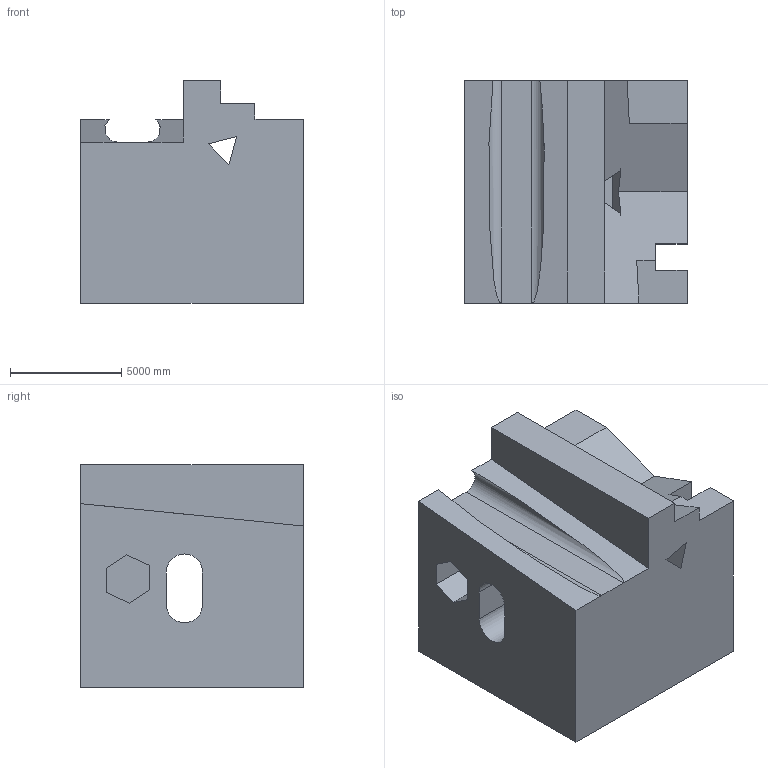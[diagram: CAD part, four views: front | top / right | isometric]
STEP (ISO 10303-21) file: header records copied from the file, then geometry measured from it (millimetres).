
FILE_DESCRIPTION (( 'STEP AP203' ), '1' );
FILE_NAME ('780.STEP', '2022-08-04T15:51:49', ( 'user' ), ( '' ), 'SwSTEP 2.0', 'SolidWorks 2021', '' );
FILE_SCHEMA (( 'CONFIG_CONTROL_DESIGN' ));
Length unit declared in the file: centimetre
Products named in the file (1): 780
Bounding box: 10000 x 10000 x 10000 mm (x, y, z)
Volume: 726604102719.8 mm3; surface area: 736164859.4 mm2
Topology: 1 solids, 1 shells, 38 faces, 109 edges, 72 vertices
Faces by surface type: plane 33, cylinder 5
Entity records: 1314 total; most frequent: CARTESIAN_POINT 226, ORIENTED_EDGE 218, DIRECTION 193, EDGE_CURVE 109, VECTOR 99, LINE 99, VERTEX_POINT 72, AXIS2_PLACEMENT_3D 47
